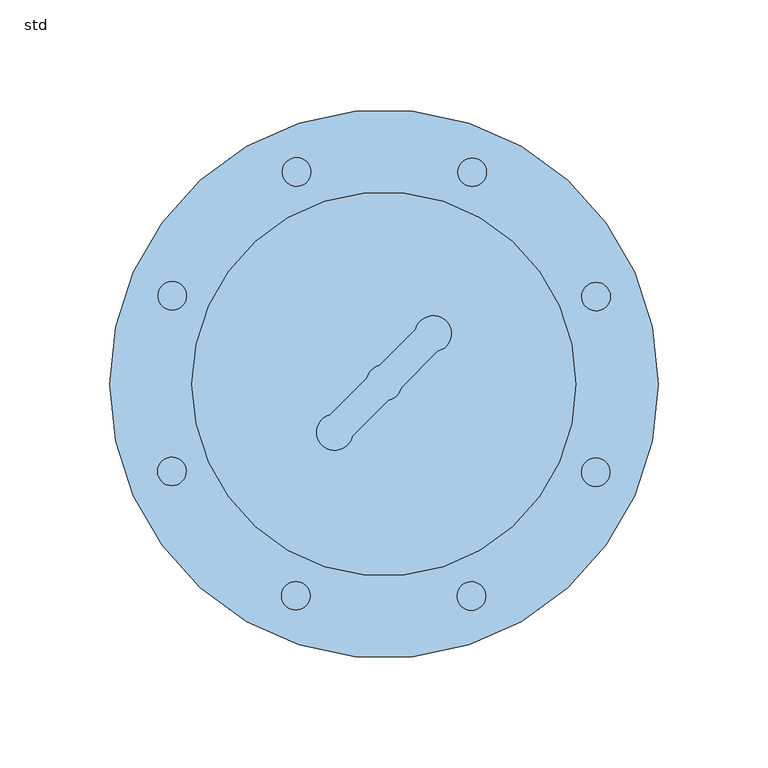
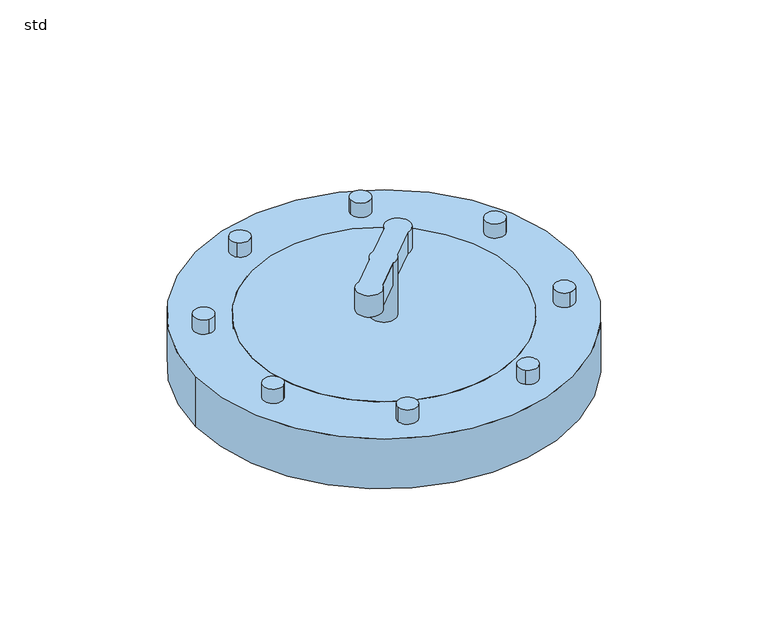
"""IFC4 building model written with IfcOpenShell, lengths in millimetres: window geometry, ZZZ_do not use_ME_PE_WPB_viewing window LipuJet-P_ACO : std."""

from ifc_helpers import new_model, si_unit, point, frame, frame_2d, origin, origin_2d, place, context, project, spatial, circle_curve, trimmed, segment, composite_curve, outline, extrude, source, transform, mapped, element, save
from ifc_brep_helpers import plane_surface, cylinder_surface, advanced_brep


def std_43f00bc0(model_context):
    return source(origin(), model_context, "Body", "SolidModel", [
        extrude(outline(composite_curve([segment(trimmed(circle_curve(frame_2d((-39.8304597, 96.6560503)), 6.502455), [point((-44.4283898, 92.0581202))], [point((-35.2325297, 101.2539803))], False, "CARTESIAN"), True, "CONTINUOUS"), segment(trimmed(circle_curve(frame_2d((-39.8304597, 96.6560503)), 6.502455), [point((-35.2325297, 101.2539803))], [point((-44.4283898, 92.0581202))], False, "CARTESIAN"), True, "CONTINUOUS")], self_intersect=False)), frame((0.0, 0.0, 10.0), z_axis=(0.0, 0.0, 1.0), x_axis=(1.0, 0.0, 0.0)), (0.0, 0.0, 1.0), 10.0),
        extrude(outline(composite_curve([segment(trimmed(circle_curve(frame_2d((-96.5105368, 40.1817604)), 6.502455), [point((-96.5105368, 33.6793054))], [point((-96.5105368, 46.6842154))], False, "CARTESIAN"), True, "CONTINUOUS"), segment(trimmed(circle_curve(frame_2d((-96.5105368, 40.1817604)), 6.502455), [point((-96.5105368, 46.6842154))], [point((-96.5105368, 33.6793054))], False, "CARTESIAN"), True, "CONTINUOUS")], self_intersect=False)), frame((0.0, 0.0, 10.0), z_axis=(0.0, 0.0, 1.0), x_axis=(1.0, 0.0, 0.0)), (0.0, 0.0, 1.0), 10.0),
        extrude(outline(composite_curve([segment(trimmed(circle_curve(frame_2d((-96.6560503, -39.8304597)), 6.502455), [point((-92.0581202, -44.4283898))], [point((-101.2539803, -35.2325297))], False, "CARTESIAN"), True, "CONTINUOUS"), segment(trimmed(circle_curve(frame_2d((-96.6560503, -39.8304597)), 6.502455), [point((-101.2539803, -35.2325297))], [point((-92.0581202, -44.4283898))], False, "CARTESIAN"), True, "CONTINUOUS")], self_intersect=False)), frame((0.0, 0.0, 10.0), z_axis=(0.0, 0.0, 1.0), x_axis=(1.0, 0.0, 0.0)), (0.0, 0.0, 1.0), 10.0),
        extrude(outline(composite_curve([segment(trimmed(circle_curve(frame_2d((-40.1817604, -96.5105368)), 6.502455), [point((-33.6793054, -96.5105368))], [point((-46.6842154, -96.5105368))], False, "CARTESIAN"), True, "CONTINUOUS"), segment(trimmed(circle_curve(frame_2d((-40.1817604, -96.5105368)), 6.502455), [point((-46.6842154, -96.5105368))], [point((-33.6793054, -96.5105368))], False, "CARTESIAN"), True, "CONTINUOUS")], self_intersect=False)), frame((0.0, 0.0, 10.0), z_axis=(0.0, 0.0, 1.0), x_axis=(1.0, 0.0, 0.0)), (0.0, 0.0, 1.0), 10.0),
        extrude(outline(composite_curve([segment(trimmed(circle_curve(frame_2d((39.8304597, -96.6560503)), 6.502455), [point((44.4283898, -92.0581202))], [point((35.2325297, -101.2539803))], False, "CARTESIAN"), True, "CONTINUOUS"), segment(trimmed(circle_curve(frame_2d((39.8304597, -96.6560503)), 6.502455), [point((35.2325297, -101.2539803))], [point((44.4283898, -92.0581202))], False, "CARTESIAN"), True, "CONTINUOUS")], self_intersect=False)), frame((0.0, 0.0, 10.0), z_axis=(0.0, 0.0, 1.0), x_axis=(1.0, 0.0, 0.0)), (0.0, 0.0, 1.0), 10.0),
        extrude(outline(composite_curve([segment(trimmed(circle_curve(frame_2d((96.5105368, -40.1817604)), 6.502455), [point((96.5105368, -33.6793054))], [point((96.5105368, -46.6842154))], False, "CARTESIAN"), True, "CONTINUOUS"), segment(trimmed(circle_curve(frame_2d((96.5105368, -40.1817604)), 6.502455), [point((96.5105368, -46.6842154))], [point((96.5105368, -33.6793054))], False, "CARTESIAN"), True, "CONTINUOUS")], self_intersect=False)), frame((0.0, 0.0, 10.0), z_axis=(0.0, 0.0, 1.0), x_axis=(1.0, 0.0, 0.0)), (0.0, 0.0, 1.0), 10.0),
        extrude(outline(composite_curve([segment(trimmed(circle_curve(frame_2d((96.6560503, 39.8304597)), 6.502455), [point((92.0581202, 44.4283898))], [point((101.2539803, 35.2325297))], False, "CARTESIAN"), True, "CONTINUOUS"), segment(trimmed(circle_curve(frame_2d((96.6560503, 39.8304597)), 6.502455), [point((101.2539803, 35.2325297))], [point((92.0581202, 44.4283898))], False, "CARTESIAN"), True, "CONTINUOUS")], self_intersect=False)), frame((0.0, 0.0, 10.0), z_axis=(0.0, 0.0, 1.0), x_axis=(1.0, 0.0, 0.0)), (0.0, 0.0, 1.0), 10.0),
        extrude(outline(composite_curve([segment(trimmed(circle_curve(frame_2d((40.1817604, 96.5105368)), 6.502455), [point((33.6793054, 96.5105368))], [point((46.6842154, 96.5105368))], False, "CARTESIAN"), True, "CONTINUOUS"), segment(trimmed(circle_curve(frame_2d((40.1817604, 96.5105368)), 6.502455), [point((46.6842154, 96.5105368))], [point((33.6793054, 96.5105368))], False, "CARTESIAN"), True, "CONTINUOUS")], self_intersect=False)), frame((0.0, 0.0, 10.0), z_axis=(0.0, 0.0, 1.0), x_axis=(1.0, 0.0, 0.0)), (0.0, 0.0, 1.0), 10.0),
        advanced_brep(
        [(1.907869, -7.4948118, 50.0), (7.9916259, -1.4110549, 50.0), (24.382405, 14.9797242, 50.0), (14.48291, 24.8792191, 50.0), (-1.907869, 8.48844, 50.0), (-7.9916259, 2.4046832, 50.0), (-24.382405, -13.9860959, 50.0), (-14.48291, -23.8855908, 50.0), (-8.2162065, 0.4968141, 10.0), (8.2162065, 0.4968141, 10.0), (8.2162065, 0.4968141, 35.0), (7.9916259, -1.4110549, 35.0), (1.907869, -7.4948118, 35.0), (-8.2162065, 0.4968141, 35.0), (-7.9916259, 2.4046832, 35.0), (-1.907869, 8.48844, 35.0), (14.48291, 24.8792191, 35.0), (24.382405, 14.9797242, 35.0), (-14.48291, -23.8855908, 35.0), (-24.382405, -13.9860959, 35.0)],
        [
            (0, 1, circle_curve(frame((0.0, 0.4968141, 50.0), z_axis=(0.0, 0.0, 1.0), x_axis=(1.0, 0.0, 0.0)), 8.2162065)),
            (1, 2),
            (2, 3, circle_curve(frame((22.4745359, 22.9713501, 50.0), z_axis=(0.0, 0.0, 1.0), x_axis=(1.0, 0.0, 0.0)), 8.2162065)),
            (3, 4),
            (4, 5, circle_curve(frame((0.0, 0.4968141, 50.0), z_axis=(0.0, 0.0, 1.0), x_axis=(1.0, 0.0, 0.0)), 8.2162065)),
            (5, 6),
            (6, 7, circle_curve(frame((-22.4745359, -21.9777218, 50.0), z_axis=(0.0, 0.0, 1.0), x_axis=(1.0, 0.0, 0.0)), 8.2162065)),
            (7, 0),
            (8, 9, circle_curve(frame((0.0, 0.4968141, 10.0), z_axis=(0.0, 0.0, -1.0), x_axis=(1.0, 0.0, 0.0)), 8.2162065)),
            (9, 8, circle_curve(frame((0.0, 0.4968141, 10.0), z_axis=(0.0, 0.0, -1.0), x_axis=(1.0, 0.0, 0.0)), 8.2162065)),
            (9, 10),
            (10, 11, circle_curve(frame((0.0, 0.4968141, 35.0), z_axis=(0.0, 0.0, -1.0), x_axis=(1.0, 0.0, 0.0)), 8.2162065)),
            (11, 1),
            (0, 12),
            (12, 13, circle_curve(frame((0.0, 0.4968141, 35.0), z_axis=(0.0, 0.0, -1.0), x_axis=(1.0, 0.0, 0.0)), 8.2162065)),
            (13, 8),
            (13, 14, circle_curve(frame((0.0, 0.4968141, 35.0), z_axis=(0.0, 0.0, -1.0), x_axis=(1.0, 0.0, 0.0)), 8.2162065)),
            (14, 5),
            (4, 15),
            (15, 10, circle_curve(frame((0.0, 0.4968141, 35.0), z_axis=(0.0, 0.0, -1.0), x_axis=(1.0, 0.0, 0.0)), 8.2162065)),
            (16, 17, circle_curve(frame((22.4745359, 22.9713501, 35.0), z_axis=(0.0, 0.0, -1.0), x_axis=(1.0, 0.0, 0.0)), 8.2162065)),
            (17, 11),
            (15, 16),
            (18, 19, circle_curve(frame((-22.4745359, -21.9777218, 35.0), z_axis=(0.0, 0.0, -1.0), x_axis=(1.0, 0.0, 0.0)), 8.2162065)),
            (19, 14),
            (12, 18),
            (3, 16),
            (19, 6),
            (18, 7),
            (17, 2),
        ],
        [
            plane_surface(frame((8.2162065, 0.4968141, 50.0), z_axis=(0.0, 0.0, 1.0), x_axis=(0.0, 1.0, 0.0))),
            plane_surface(frame((8.2162065, 0.4968141, 10.0), z_axis=(0.0, 0.0, -1.0), x_axis=(0.0, -1.0, 0.0))),
            cylinder_surface(frame((0.0, 0.4968141, 10.0), z_axis=(0.0, 0.0, 1.0), x_axis=(1.0, 0.0, 0.0)), 8.2162065),
            plane_surface(frame((14.48291, 24.8792191, 35.0), z_axis=(0.0, 0.0, -1.0), x_axis=(0.7071067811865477, 0.7071067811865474, 0.0))),
            plane_surface(frame((14.48291, 24.8792191, 50.0), z_axis=(-0.7071067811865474, 0.7071067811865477, 0.0), x_axis=(0.0, 0.0, -1.0))),
            cylinder_surface(frame((-22.4745359, -21.9777218, 35.0), z_axis=(0.0, 0.0, 1.0), x_axis=(1.0, 0.0, 0.0)), 8.2162065),
            plane_surface(frame((-14.48291, -23.8855908, 50.0), z_axis=(0.7071067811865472, -0.7071067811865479, 0.0), x_axis=(0.0, 0.0, -1.0))),
            cylinder_surface(frame((22.4745359, 22.9713501, 35.0), z_axis=(0.0, 0.0, 1.0), x_axis=(1.0, 0.0, 0.0)), 8.2162065),
        ],
        [
            (0, [[1, 2, 3, 4, 5, 6, 7, 8]]),
            (1, [[9, 10]]),
            (2, [[-10, 11, 12, 13, -1, 14, 15, 16]]),
            (2, [[-9, -16, 17, 18, -5, 19, 20, -11]]),
            (3, [[21, 22, -12, -20, 23]]),
            (3, [[24, 25, -17, -15, 26]]),
            (4, [[27, -23, -19, -4]]),
            (4, [[28, -6, -18, -25]]),
            (5, [[-7, -28, -24, 29]]),
            (6, [[-29, -26, -14, -8]]),
            (6, [[30, -2, -13, -22]]),
            (7, [[-3, -30, -21, -27]]),
        ],
    ),
        extrude(outline(composite_curve([segment(trimmed(circle_curve(origin_2d(), 87.5), [point((-87.5, 0.0))], [point((87.5, 0.0))], False, "CARTESIAN"), True, "CONTINUOUS"), segment(trimmed(circle_curve(origin_2d(), 87.5), [point((87.5, 0.0))], [point((-87.5, 0.0))], False, "CARTESIAN"), True, "CONTINUOUS")], self_intersect=False)), frame((0.0, 0.0, -25.0), z_axis=(0.0, 0.0, 1.0), x_axis=(1.0, 0.0, 0.0)), (0.0, 0.0, 1.0), 35.0),
        extrude(outline(composite_curve([segment(trimmed(circle_curve(origin_2d(), 125.0), [point((-125.0, 0.0))], [point((125.0, 0.0))], False, "CARTESIAN"), True, "CONTINUOUS"), segment(trimmed(circle_curve(origin_2d(), 125.0), [point((125.0, 0.0))], [point((-125.0, 0.0))], False, "CARTESIAN"), True, "CONTINUOUS")], self_intersect=False), holes=[composite_curve([segment(trimmed(circle_curve(origin_2d(), 87.5), [point((-87.5, 0.0))], [point((87.5, 0.0))], True, "CARTESIAN"), True, "CONTINUOUS"), segment(trimmed(circle_curve(origin_2d(), 87.5), [point((87.5, 0.0))], [point((-87.5, 0.0))], True, "CARTESIAN"), True, "CONTINUOUS")], self_intersect=False)]), frame((0.0, 0.0, -25.0), z_axis=(0.0, 0.0, 1.0), x_axis=(1.0, 0.0, 0.0)), (0.0, 0.0, 1.0), 35.0),
    ])


if __name__ == "__main__":
    model = new_model("IFC4")
    model_context = context("Model", 3, world=origin())
    ifc_project = project(units=[si_unit("LENGTHUNIT", "METRE", prefix="MILLI")], contexts=[model_context])
    site = spatial("IfcSite", under=ifc_project)
    building = spatial("IfcBuilding", under=site)
    placement = place(None, origin())
    std_shape = std_43f00bc0(model_context)
    element("IfcWindow", 1, ObjectType="ZZZ_do not use_ME_PE_WPB_viewing window LipuJet-P_ACO : std", at=placement, inside=building, context=model_context, shape_type="MappedRepresentation", body=[
        mapped(std_shape, transform((0.0, 0.0, 0.0), x_axis=(1.0, 0.0, 0.0), y_axis=(0.0, 1.0, 0.0), z_axis=(0.0, 0.0, 1.0))),
    ])
    save(model, "model.ifc")
